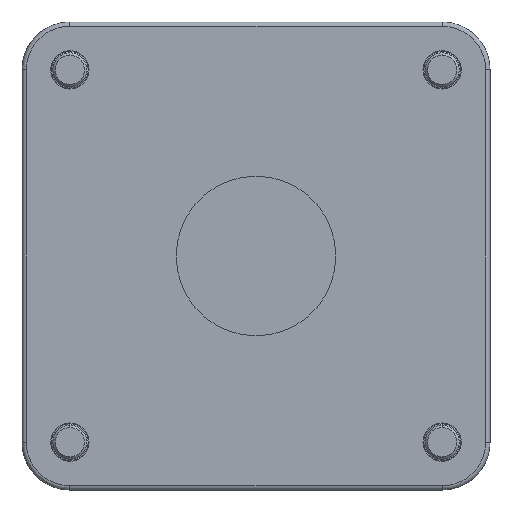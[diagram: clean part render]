
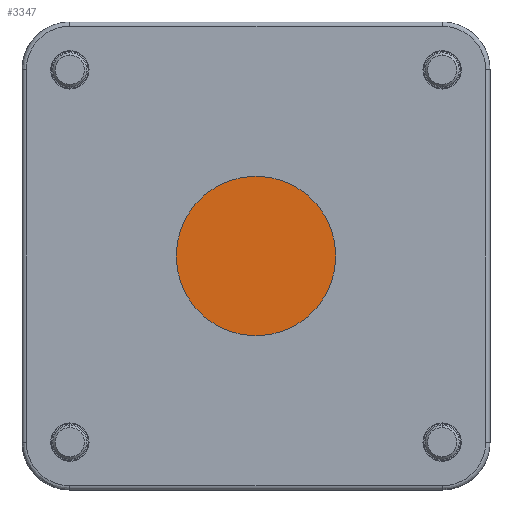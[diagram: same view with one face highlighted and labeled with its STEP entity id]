
A CAD part, front view. The second image highlights one B-rep face of the part: STEP entity #3347.
In plain terms, the highlighted planar face has unit normal (0, -1, 0).
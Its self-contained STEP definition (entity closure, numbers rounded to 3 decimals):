
#6 = CARTESIAN_POINT ( 'NONE',  ( 0., 7., 0. ) ) ;
#202 = DIRECTION ( 'NONE',  ( 0., -1., 0. ) ) ;
#1058 = VERTEX_POINT ( 'NONE', #8373 ) ;
#1722 = DIRECTION ( 'NONE',  ( 0., 0., -1. ) ) ;
#2159 = CIRCLE ( 'NONE', #10754, 37.5 ) ;
#3226 = EDGE_CURVE ( 'NONE', #1058, #7981, #2159, .T. ) ;
#3347 = ADVANCED_FACE ( 'NONE', ( #13865 ), #21185, .T. ) ;
#4820 = CARTESIAN_POINT ( 'NONE',  ( 0., 7., 0. ) ) ;
#6930 = AXIS2_PLACEMENT_3D ( 'NONE', #4820, #19372, #8735 ) ;
#7434 = ORIENTED_EDGE ( 'NONE', *, *, #19896, .T. ) ;
#7491 = ORIENTED_EDGE ( 'NONE', *, *, #3226, .T. ) ;
#7981 = VERTEX_POINT ( 'NONE', #12521 ) ;
#8373 = CARTESIAN_POINT ( 'NONE',  ( 0., 7., 37.5 ) ) ;
#8735 = DIRECTION ( 'NONE',  ( 0., 0., -1. ) ) ;
#10754 = AXIS2_PLACEMENT_3D ( 'NONE', #6, #202, #22818 ) ;
#11768 = CIRCLE ( 'NONE', #25769, 37.5 ) ;
#12521 = CARTESIAN_POINT ( 'NONE',  ( 0., 7., -37.5 ) ) ;
#13865 = FACE_OUTER_BOUND ( 'NONE', #15963, .T. ) ;
#14141 = DIRECTION ( 'NONE',  ( 0., -1., 0. ) ) ;
#15963 = EDGE_LOOP ( 'NONE', ( #7434, #7491 ) ) ;
#16429 = CARTESIAN_POINT ( 'NONE',  ( 0., 7., 0. ) ) ;
#19372 = DIRECTION ( 'NONE',  ( 0., -1., 0. ) ) ;
#19896 = EDGE_CURVE ( 'NONE', #7981, #1058, #11768, .T. ) ;
#21185 = PLANE ( 'NONE',  #6930 ) ;
#22818 = DIRECTION ( 'NONE',  ( 0., 0., -1. ) ) ;
#25769 = AXIS2_PLACEMENT_3D ( 'NONE', #16429, #14141, #1722 ) ;
